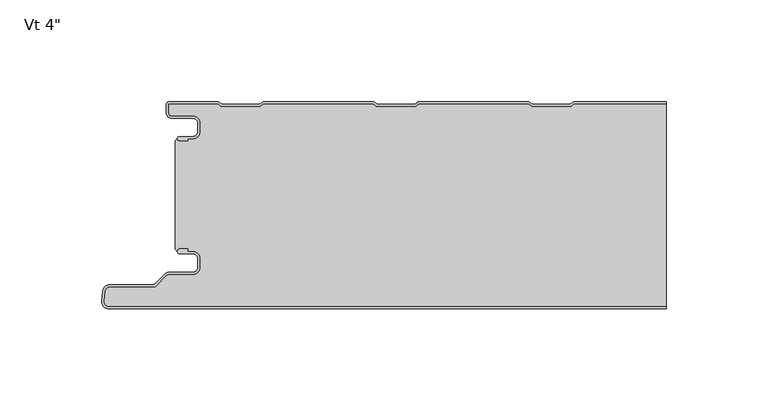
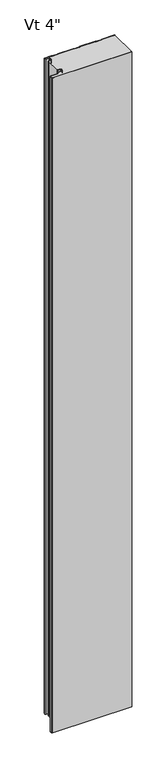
"""IFC4 building model written with IfcOpenShell, lengths in millimetres: plate geometry."""

import ifcopenshell
import ifcopenshell.guid

model = None  # the IFC model being written
_history = None  # IfcOwnerHistory: only IFC2X3 demands one
_inside = {}  # id of a spatial element -> (the spatial element, [elements in it])
_under = {}  # id of a project, library or spatial element -> (it, [spatial elements below it])
_declared = {}  # id of a project -> (the project, [libraries it declares])
_typed = {}  # id of a type object -> (the type object, [elements of that type])
_made_of = {}  # id of a material, layer set ... -> (it, [elements and type objects made of it])


def new_model(schema):
    """Start an empty IFC model of exactly this schema.

    Asked for "IFC4X3", IfcOpenShell would pick the latest addendum, in which some entities
    have other attributes; the version numbers below select the first issue.
    IFC2X3 requires an IfcOwnerHistory on every rooted entity: one is made here for all.
    """
    global model, _history
    if schema == "IFC4X3":
        model = ifcopenshell.file(schema_version=(4, 3, 0, 0))
    else:
        model = ifcopenshell.file(schema=schema)
    _inside.clear()
    _under.clear()
    _declared.clear()
    _typed.clear()
    _made_of.clear()
    _history = None
    if model.schema == "IFC2X3":
        org = make("IfcOrganization", Name="unknown")
        user = make(
            "IfcPersonAndOrganization",
            ThePerson=make("IfcPerson", FamilyName="unknown"),
            TheOrganization=org,
        )
        app = make(
            "IfcApplication",
            ApplicationDeveloper=org,
            Version="unknown",
            ApplicationFullName="unknown",
            ApplicationIdentifier="unknown",
        )
        _history = make(
            "IfcOwnerHistory",
            OwningUser=user,
            OwningApplication=app,
            ChangeAction="ADDED",
            CreationDate=0,
        )
    return model


def make(cls, **values):
    """One entity of the class cls with the attributes given. An attribute that is None is left unset."""
    return model.create_entity(
        cls, **{name: value for name, value in values.items() if value is not None}
    )


def rooted(cls, **values):
    """An entity with a GlobalId (a new one), such as an element, a storey or a relation."""
    return make(cls, GlobalId=ifcopenshell.guid.new(), OwnerHistory=_history, **values)


def si_unit(unit_type, name, prefix=None):
    """IfcSIUnit, for example si_unit("LENGTHUNIT", "METRE", prefix="MILLI")."""
    return make("IfcSIUnit", UnitType=unit_type, Prefix=prefix, Name=name)


def assignment(units):
    """IfcUnitAssignment: the units of a project."""
    return None if units is None else make("IfcUnitAssignment", Units=units)


def point(xyz):
    """IfcCartesianPoint."""
    return None if xyz is None else make("IfcCartesianPoint", Coordinates=xyz)


def direction(xyz):
    """IfcDirection."""
    return None if xyz is None else make("IfcDirection", DirectionRatios=xyz)


def frame(location, z_axis=None, x_axis=None):
    """IfcAxis2Placement3D, a coordinate frame: its origin and axes. An axis left out is left unset."""
    return make(
        "IfcAxis2Placement3D",
        Location=point(location),
        Axis=direction(z_axis),
        RefDirection=direction(x_axis),
    )


def frame_2d(location, x_axis=None):
    """IfcAxis2Placement2D, a coordinate frame in the plane: its origin and x axis."""
    return make(
        "IfcAxis2Placement2D", Location=point(location), RefDirection=direction(x_axis)
    )


def origin():
    """The frame at (0, 0, 0) with its axes left unset."""
    return frame((0.0, 0.0, 0.0))


def origin_with_axes():
    """The frame at (0, 0, 0) with the z axis (0, 0, 1) and the x axis (1, 0, 0) written out."""
    return frame((0.0, 0.0, 0.0), z_axis=(0.0, 0.0, 1.0), x_axis=(1.0, 0.0, 0.0))


def place(relative_to, where):
    """IfcLocalPlacement: puts the frame where relative to a parent placement (None: the world)."""
    return make(
        "IfcLocalPlacement", PlacementRelTo=relative_to, RelativePlacement=where
    )


def context(
    kind, dimensions, precision=None, world=None, true_north=None, identifier=None
):
    """IfcGeometricRepresentationContext, for example the 3D "Model" context."""
    return make(
        "IfcGeometricRepresentationContext",
        ContextIdentifier=identifier,
        ContextType=kind,
        CoordinateSpaceDimension=dimensions,
        Precision=precision,
        WorldCoordinateSystem=world,
        TrueNorth=true_north,
    )


def project(units=None, contexts=None):
    """IfcProject with its units and contexts."""
    return rooted(
        "IfcProject",
        Name="project",
        RepresentationContexts=contexts,
        UnitsInContext=assignment(units),
    )


def spatial(cls, under=None, at=None, **own):
    """A site, building, storey or space (cls), placed at a placement, below another one or the project."""
    s = rooted(cls, ObjectPlacement=at, **own)
    if under is not None:
        _under.setdefault(under.id(), (under, []))[1].append(s)
    return s


def polyline(points):
    """IfcPolyline through the points."""
    return make("IfcPolyline", Points=[point(p) for p in points])


def circle_curve(where, radius):
    """IfcCircle in the frame where."""
    return make("IfcCircle", Position=where, Radius=radius)


def trimmed(basis, trim1, trim2, sense, master):
    """IfcTrimmedCurve: the piece of a basis curve between two trims."""
    return make(
        "IfcTrimmedCurve",
        BasisCurve=basis,
        Trim1=trim1,
        Trim2=trim2,
        SenseAgreement=sense,
        MasterRepresentation=master,
    )


def segment(curve, same_sense, transition):
    """IfcCompositeCurveSegment."""
    return make(
        "IfcCompositeCurveSegment",
        Transition=transition,
        SameSense=same_sense,
        ParentCurve=curve,
    )


def composite_curve(segments, self_intersect=None):
    """IfcCompositeCurve: segments joined end to end."""
    return make("IfcCompositeCurve", Segments=segments, SelfIntersect=self_intersect)


def outline(outer, holes=None, kind="AREA"):
    """IfcArbitraryClosedProfileDef: a profile drawn as a closed curve; with holes, ...WithVoids."""
    if holes is None:
        return make("IfcArbitraryClosedProfileDef", ProfileType=kind, OuterCurve=outer)
    return make(
        "IfcArbitraryProfileDefWithVoids",
        ProfileType=kind,
        OuterCurve=outer,
        InnerCurves=holes,
    )


def extrude(swept, where, along, depth):
    """IfcExtrudedAreaSolid: the profile swept, set in the frame where, extruded along a direction by depth."""
    return make(
        "IfcExtrudedAreaSolid",
        SweptArea=swept,
        Position=where,
        ExtrudedDirection=direction(along),
        Depth=depth,
    )


def shape(context_of_items, identifier, shape_type, items):
    """IfcShapeRepresentation: the items that make up one representation, for example the "Body"."""
    return make(
        "IfcShapeRepresentation",
        ContextOfItems=context_of_items,
        RepresentationIdentifier=identifier,
        RepresentationType=shape_type,
        Items=items,
    )


def source(mapping_origin, context_of_items, identifier, shape_type, items):
    """IfcRepresentationMap: a shape defined once, which mapped items show again and again."""
    return make(
        "IfcRepresentationMap",
        MappingOrigin=mapping_origin,
        MappedRepresentation=shape(context_of_items, identifier, shape_type, items),
    )


def transform(
    local_origin,
    x_axis=None,
    y_axis=None,
    z_axis=None,
    scale=None,
    scale2=None,
    scale3=None,
    uniform=True,
):
    """IfcCartesianTransformationOperator3D, or its non-uniform kind. x_axis, y_axis, z_axis: its Axis1, 2, 3."""
    if uniform:
        return make(
            "IfcCartesianTransformationOperator3D",
            Axis1=direction(x_axis),
            Axis2=direction(y_axis),
            LocalOrigin=point(local_origin),
            Scale=scale,
            Axis3=direction(z_axis),
        )
    return make(
        "IfcCartesianTransformationOperator3DnonUniform",
        Axis1=direction(x_axis),
        Axis2=direction(y_axis),
        LocalOrigin=point(local_origin),
        Scale=scale,
        Axis3=direction(z_axis),
        Scale2=scale2,
        Scale3=scale3,
    )


def mapped(mapping_source, mapping_target):
    """IfcMappedItem: shows the shape of a source again, moved by a transform."""
    return make(
        "IfcMappedItem", MappingSource=mapping_source, MappingTarget=mapping_target
    )


def made_of(thing, what):
    """Note that an element or type object is made of a material, layer set ...; save() writes the relation."""
    if what is not None:
        _made_of.setdefault(what.id(), (what, []))[1].append(thing)
    return thing


def element(
    cls,
    number,
    at=None,
    inside=None,
    cuts=None,
    type_object=None,
    material=None,
    context=None,
    identifier="Body",
    shape_type=None,
    held_by="IfcProductDefinitionShape",
    body=None,
    shapes=None,
    **own,
):
    """One element of the class cls, such as IfcWall. Its Tag is "e" and its number.

    at: its placement. inside: the storey or other place that contains it. cuts: it is an
    opening in that element (IfcRelVoidsElement). A single representation is given by context,
    identifier, shape_type and body (its items); several are given by shapes. held_by: the class
    of the entity that holds the representations. save() writes the other relations.
    """
    e = rooted(cls, Tag="e%d" % number, ObjectPlacement=at, **own)
    if body is not None:
        shapes = [shape(context, identifier, shape_type, body)]
    if shapes is not None:
        e.Representation = make(held_by, Representations=shapes)
    if inside is not None:
        _inside.setdefault(inside.id(), (inside, []))[1].append(e)
    if cuts is not None:
        rooted(
            "IfcRelVoidsElement", RelatingBuildingElement=cuts, RelatedOpeningElement=e
        )
    if type_object is not None:
        _typed.setdefault(type_object.id(), (type_object, []))[1].append(e)
    return made_of(e, material)


def aggregate(whole, parts):
    """IfcRelAggregates: a whole, such as a stair, and the parts it consists of."""
    return rooted("IfcRelAggregates", RelatingObject=whole, RelatedObjects=parts)


def save(model, path):
    """Write the relations noted so far, then the file.

    IfcRelAggregates (storeys below a building ...), IfcRelContainedInSpatialStructure (elements
    in a storey), IfcRelDefinesByType, IfcRelAssociatesMaterial and IfcRelDeclares: one each for
    every whole, place, type object, material and project.
    """
    for whole, parts in _under.values():
        aggregate(whole, parts)
    for where, things in _inside.values():
        rooted(
            "IfcRelContainedInSpatialStructure",
            RelatedElements=things,
            RelatingStructure=where,
        )
    for kind, things in _typed.values():
        rooted("IfcRelDefinesByType", RelatedObjects=things, RelatingType=kind)
    for what, things in _made_of.values():
        rooted("IfcRelAssociatesMaterial", RelatedObjects=things, RelatingMaterial=what)
    for by, libraries in _declared.values():
        rooted("IfcRelDeclares", RelatingContext=by, RelatedDefinitions=libraries)
    model.write(path)


def plane_surface(at):
    """IfcPlane: the flat surface through the origin of the frame at, square to its z axis."""
    return make("IfcPlane", Position=at)


def cylinder_surface(at, radius):
    """IfcCylindricalSurface: all points at the distance radius from the z axis of the frame at."""
    return make("IfcCylindricalSurface", Position=at, Radius=radius)


def revolved_surface(curve, axis_point, axis_direction):
    """IfcSurfaceOfRevolution: the curve turned about the line through axis_point along axis_direction."""
    return make(
        "IfcSurfaceOfRevolution",
        SweptCurve=make("IfcArbitraryOpenProfileDef", ProfileType="CURVE", Curve=curve),
        AxisPosition=make("IfcAxis1Placement", Location=point(axis_point), Axis=direction(axis_direction)),
    )


def advanced_brep(points, edges, surfaces, faces):
    """IfcAdvancedBrep: a solid bounded by faces that lie on surfaces and meet in shared edges.

    An edge is (start, end): straight between two places in points (the first is 0);
    or (start, end, curve); or (start, end, curve, False) where it runs against its curve.
    A face is (place in surfaces, loops), or (place, loops, False) where it looks against
    its surface's normal. A loop lists edges by number (the first is 1), with a minus sign
    where the edge is run from its end to its start. The first loop is the outer one.
    """
    corners = [point(p) for p in points]
    vertices = [make("IfcVertexPoint", VertexGeometry=c) for c in corners]
    made = []
    for start, end, *more in edges:
        made.append(
            make(
                "IfcEdgeCurve",
                EdgeStart=vertices[start],
                EdgeEnd=vertices[end],
                EdgeGeometry=more[0] if more else make("IfcPolyline", Points=[corners[start], corners[end]]),
                SameSense=more[1] if len(more) > 1 else True,
            )
        )
    hull = []
    for where, loops, *sense in faces:
        bounds = []
        for j, loop in enumerate(loops):
            ring = [make("IfcOrientedEdge", EdgeElement=made[abs(k) - 1], Orientation=k > 0) for k in loop]
            bounds.append(
                make(
                    "IfcFaceOuterBound" if j == 0 else "IfcFaceBound",
                    Bound=make("IfcEdgeLoop", EdgeList=ring),
                    Orientation=True,
                )
            )
        hull.append(make("IfcAdvancedFace", Bounds=bounds, FaceSurface=surfaces[where], SameSense=sense[0] if sense else True))
    return make("IfcAdvancedBrep", Outer=make("IfcClosedShell", CfsFaces=hull))


def plate_c613c6d9(model_context):
    return source(origin(), model_context, "Body", "SolidModel", [
        advanced_brep(
        [(-118.368691, -17.0015034, 2400.0), (-119.3686883, -18.0015065, 2400.0), (-118.368691, -19.0014978, 2400.0), (-114.3684874, -19.0014979, 2400.0), (-114.3684874, -18.0015034, 2400.0), (-111.6762776, -18.0015034, 2400.0), (-108.3762819, -14.7015077, 2400.0), (-108.3762819, -10.3015164, 2400.0), (-111.6762774, -7.001521, 2400.0), (-122.0962563, -7.001521, 2400.0), (-123.8662505, -5.2315268, 2400.0), (-123.8662505, -0.9999791, 2400.0), (-99.3659738, -0.9999791, 2400.0), (-97.9803312, -2.2002182, 2400.0), (-78.6051649, -2.2002182, 2400.0), (-77.219532, -0.9999874, 2400.0), (-23.1661166, -0.9999874, 2400.0), (-21.7804836, -2.2002182, 2400.0), (-2.4053173, -2.2002182, 2400.0), (-1.0196844, -0.9999874, 2400.0), (53.033731, -0.9999874, 2400.0), (54.419364, -2.2002182, 2400.0), (73.7945303, -2.2002182, 2400.0), (75.1801632, -0.9999874, 2400.0), (120.3999998, -0.9999874, 2400.0), (120.3999998, 1.26e-05, 2400.0), (75.3293144, 1.26e-05, 2400.0), (74.4126975, -0.3417759, 2400.0), (73.4216499, -1.2002182, 2400.0), (54.7922444, -1.2002182, 2400.0), (53.8011968, -0.3417759, 2400.0), (52.8845799, 1.26e-05, 2400.0), (-0.8705332, 1.26e-05, 2400.0), (-1.7871501, -0.3417759, 2400.0), (-2.7781977, -1.2002182, 2400.0), (-21.4076032, -1.2002182, 2400.0), (-22.3986508, -0.3417759, 2400.0), (-23.3152677, 1.26e-05, 2400.0), (-77.0703808, 1.26e-05, 2400.0), (-77.9869977, -0.3417759, 2400.0), (-78.9780453, -1.2002182, 2400.0), (-97.6074508, -1.2002182, 2400.0), (-98.5984984, -0.3417759, 2400.0), (-99.5152067, 1.26e-05, 2400.0), (-123.4662543, 2.09e-05, 2400.0), (-124.8662505, -1.3999752, 2400.0), (-124.8662505, -5.2315268, 2400.0), (-122.0962563, -8.001521, 2400.0), (-111.6762774, -8.001521, 2400.0), (-109.3762819, -10.3015164, 2400.0), (-109.3762819, -14.7015077, 2400.0), (-111.6762776, -17.0015034, 2400.0), (-118.368691, -17.0015034, 0.0), (-111.6762776, -17.0015034, 0.0), (-109.3762819, -14.7015077, 0.0), (-109.3762819, -10.3015164, 0.0), (-111.6762774, -8.001521, 0.0), (-122.0962563, -8.001521, 0.0), (-124.8662505, -5.2315268, 0.0), (-124.8662505, -1.3999752, 0.0), (-123.4662543, 2.09e-05, 0.0), (-99.5151153, 2.09e-05, 0.0), (-98.5984984, -0.3417759, 0.0), (-97.6074508, -1.2002182, 0.0), (-78.9780453, -1.2002182, 0.0), (-77.9869977, -0.3417759, 0.0), (-77.0703808, 1.26e-05, 0.0), (-23.3152677, 1.26e-05, 0.0), (-22.3986508, -0.3417759, 0.0), (-21.4076032, -1.2002182, 0.0), (-2.7781977, -1.2002182, 0.0), (-1.7871501, -0.3417759, 0.0), (-0.8705332, 1.26e-05, 0.0), (52.8845799, 1.26e-05, 0.0), (53.8011968, -0.3417759, 0.0), (54.7922444, -1.2002182, 0.0), (73.4216499, -1.2002182, 0.0), (74.4126975, -0.3417759, 0.0), (75.3293144, 1.26e-05, 0.0), (120.3999998, 1.26e-05, 0.0), (120.3999998, -0.9999874, 0.0), (75.1801632, -0.9999874, 0.0), (73.7945303, -2.2002182, 0.0), (54.419364, -2.2002182, 0.0), (53.033731, -0.9999874, 0.0), (-1.0196844, -0.9999874, 0.0), (-2.4053173, -2.2002182, 0.0), (-21.7804836, -2.2002182, 0.0), (-23.1661166, -0.9999874, 0.0), (-77.219532, -0.9999874, 0.0), (-78.6051649, -2.2002182, 0.0), (-97.9803312, -2.2002182, 0.0), (-99.3659738, -0.9999791, 0.0), (-123.8662505, -0.9999791, 0.0), (-123.8662505, -5.2315268, 0.0), (-122.0962563, -7.001521, 0.0), (-111.6762774, -7.001521, 0.0), (-108.3762819, -10.3015164, 0.0), (-108.3762819, -14.7015077, 0.0), (-111.6762776, -18.0015034, 0.0), (-114.3684874, -18.0015034, 0.0), (-114.3684874, -19.0014979, 0.0), (-118.368691, -19.0014979, 0.0), (-119.3686882, -18.0015065, 0.0)],
        [
            (0, 1, circle_curve(frame((-118.368691, -18.0015006, 2400.0), z_axis=(0.0, 0.0, 1.0), x_axis=(1.0, 0.0, 0.0)), 0.9999973)),
            (1, 2, circle_curve(frame((-118.368691, -18.0015006, 2400.0), z_axis=(0.0, 0.0, 1.0), x_axis=(1.0, 0.0, 0.0)), 0.9999972)),
            (2, 3),
            (3, 4),
            (4, 5),
            (5, 6, circle_curve(frame((-111.6762776, -14.7015077, 2400.0), z_axis=(0.0, 0.0, 1.0), x_axis=(1.0, 0.0, 0.0)), 3.2999957)),
            (6, 7),
            (7, 8, circle_curve(frame((-111.6762774, -10.3015164, 2400.0), z_axis=(0.0, 0.0, 1.0), x_axis=(1.0, 0.0, 0.0)), 3.2999955)),
            (8, 9),
            (9, 10, circle_curve(frame((-122.0962563, -5.2315268, 2400.0), z_axis=(0.0, 0.0, -1.0), x_axis=(1.0, 0.0, 0.0)), 1.7699942)),
            (10, 11),
            (11, 12),
            (12, 13),
            (13, 14),
            (14, 15),
            (15, 16),
            (16, 17),
            (17, 18),
            (18, 19),
            (19, 20),
            (20, 21),
            (21, 22),
            (22, 23),
            (23, 24),
            (24, 25),
            (25, 26),
            (26, 27, circle_curve(frame((75.3293144, -1.3999846, 2400.0), z_axis=(0.0, 0.0, 1.0), x_axis=(1.0, 0.0, 0.0)), 1.3999972)),
            (27, 28),
            (28, 29),
            (29, 30),
            (30, 31, circle_curve(frame((52.8845799, -1.3999846, 2400.0), z_axis=(0.0, 0.0, 1.0), x_axis=(1.0, 0.0, 0.0)), 1.3999972)),
            (31, 32),
            (32, 33, circle_curve(frame((-0.8705332, -1.3999846, 2400.0), z_axis=(0.0, 0.0, 1.0), x_axis=(1.0, 0.0, 0.0)), 1.3999972)),
            (33, 34),
            (34, 35),
            (35, 36),
            (36, 37, circle_curve(frame((-23.3152677, -1.3999846, 2400.0), z_axis=(0.0, 0.0, 1.0), x_axis=(1.0, 0.0, 0.0)), 1.3999972)),
            (37, 38),
            (38, 39, circle_curve(frame((-77.0703808, -1.3999846, 2400.0), z_axis=(0.0, 0.0, 1.0), x_axis=(1.0, 0.0, 0.0)), 1.3999972)),
            (39, 40),
            (40, 41),
            (41, 42),
            (42, 43, circle_curve(frame((-99.5151153, -1.3999846, 2400.0), z_axis=(0.0, 0.0, 1.0), x_axis=(1.0, 0.0, 0.0)), 1.3999972)),
            (43, 44),
            (44, 45, circle_curve(frame((-123.4662543, -1.3999752, 2400.0), z_axis=(0.0, 0.0, 1.0), x_axis=(1.0, 0.0, 0.0)), 1.3999962)),
            (45, 46),
            (46, 47, circle_curve(frame((-122.0962563, -5.2315268, 2400.0), z_axis=(0.0, 0.0, 1.0), x_axis=(1.0, 0.0, 0.0)), 2.7699942)),
            (47, 48),
            (48, 49, circle_curve(frame((-111.6762774, -10.3015164, 2400.0), z_axis=(0.0, 0.0, -1.0), x_axis=(1.0, 0.0, 0.0)), 2.2999955)),
            (49, 50),
            (50, 51, circle_curve(frame((-111.6762776, -14.7015077, 2400.0), z_axis=(0.0, 0.0, -1.0), x_axis=(1.0, 0.0, 0.0)), 2.2999957)),
            (51, 0),
            (52, 53),
            (53, 54, circle_curve(frame((-111.6762776, -14.7015077, 0.0), z_axis=(0.0, 0.0, 1.0), x_axis=(1.0, 0.0, 0.0)), 2.2999957)),
            (54, 55),
            (55, 56, circle_curve(frame((-111.6762774, -10.3015164, 0.0), z_axis=(0.0, 0.0, 1.0), x_axis=(1.0, 0.0, 0.0)), 2.2999955)),
            (56, 57),
            (57, 58, circle_curve(frame((-122.0962563, -5.2315268, 0.0), z_axis=(0.0, 0.0, -1.0), x_axis=(1.0, 0.0, 0.0)), 2.7699942)),
            (58, 59),
            (59, 60, circle_curve(frame((-123.4662543, -1.3999752, 0.0), z_axis=(0.0, 0.0, -1.0), x_axis=(1.0, 0.0, 0.0)), 1.3999962)),
            (60, 61),
            (61, 62, circle_curve(frame((-99.5151153, -1.3999846, 0.0), z_axis=(0.0, 0.0, -1.0), x_axis=(1.0, 0.0, 0.0)), 1.3999972)),
            (62, 63),
            (63, 64),
            (64, 65),
            (65, 66, circle_curve(frame((-77.0703808, -1.3999846, 0.0), z_axis=(0.0, 0.0, -1.0), x_axis=(1.0, 0.0, 0.0)), 1.3999972)),
            (66, 67),
            (67, 68, circle_curve(frame((-23.3152677, -1.3999846, 0.0), z_axis=(0.0, 0.0, -1.0), x_axis=(1.0, 0.0, 0.0)), 1.3999972)),
            (68, 69),
            (69, 70),
            (70, 71),
            (71, 72, circle_curve(frame((-0.8705332, -1.3999846, 0.0), z_axis=(0.0, 0.0, -1.0), x_axis=(1.0, 0.0, 0.0)), 1.3999972)),
            (72, 73),
            (73, 74, circle_curve(frame((52.8845799, -1.3999846, 0.0), z_axis=(0.0, 0.0, -1.0), x_axis=(1.0, 0.0, 0.0)), 1.3999972)),
            (74, 75),
            (75, 76),
            (76, 77),
            (77, 78, circle_curve(frame((75.3293144, -1.3999846, 0.0), z_axis=(0.0, 0.0, -1.0), x_axis=(1.0, 0.0, 0.0)), 1.3999972)),
            (78, 79),
            (79, 80),
            (80, 81),
            (81, 82),
            (82, 83),
            (83, 84),
            (84, 85),
            (85, 86),
            (86, 87),
            (87, 88),
            (88, 89),
            (89, 90),
            (90, 91),
            (91, 92),
            (92, 93),
            (93, 94),
            (94, 95, circle_curve(frame((-122.0962563, -5.2315268, 0.0), z_axis=(0.0, 0.0, 1.0), x_axis=(1.0, 0.0, 0.0)), 1.7699942)),
            (95, 96),
            (96, 97, circle_curve(frame((-111.6762774, -10.3015164, 0.0), z_axis=(0.0, 0.0, -1.0), x_axis=(1.0, 0.0, 0.0)), 3.2999955)),
            (97, 98),
            (98, 99, circle_curve(frame((-111.6762776, -14.7015077, 0.0), z_axis=(0.0, 0.0, -1.0), x_axis=(1.0, 0.0, 0.0)), 3.2999957)),
            (99, 100),
            (100, 101),
            (101, 102),
            (102, 103, circle_curve(frame((-118.368691, -18.0015006, 0.0), z_axis=(0.0, 0.0, -1.0), x_axis=(1.0, 0.0, 0.0)), 0.9999972)),
            (103, 52, circle_curve(frame((-118.368691, -18.0015006, 0.0), z_axis=(0.0, 0.0, -1.0), x_axis=(1.0, 0.0, 0.0)), 0.9999973)),
            (24, 80),
            (79, 25),
            (51, 53),
            (52, 0),
            (50, 54),
            (49, 55),
            (48, 56),
            (47, 57),
            (46, 58),
            (45, 59),
            (44, 60),
            (43, 61),
            (78, 26),
            (42, 62),
            (41, 63),
            (40, 64),
            (38, 66),
            (65, 39),
            (36, 68),
            (67, 37),
            (77, 27),
            (76, 28),
            (31, 73),
            (72, 32),
            (71, 33),
            (34, 70),
            (69, 35),
            (30, 74),
            (29, 75),
            (2, 102),
            (101, 3),
            (1, 103),
            (23, 81),
            (22, 82),
            (21, 83),
            (20, 84),
            (19, 85),
            (18, 86),
            (17, 87),
            (16, 88),
            (15, 89),
            (14, 90),
            (13, 91),
            (12, 92),
            (11, 93),
            (10, 94),
            (9, 95),
            (8, 96),
            (7, 97),
            (6, 98),
            (5, 99),
            (4, 100),
        ],
        [
            plane_surface(frame((184.4000002, 1.26e-05, 2400.0), z_axis=(0.0, 0.0, 1.0), x_axis=(0.0, 1.0, 0.0))),
            plane_surface(frame((184.4000002, 1.26e-05, 0.0), z_axis=(0.0, 0.0, -1.0), x_axis=(0.0, 1.0, 0.0))),
            plane_surface(frame((120.3999998, -111.5999874, 2400.0), z_axis=(1.0, 0.0, 0.0), x_axis=(0.0, 0.0, -1.0))),
            plane_surface(frame((-118.368691, -17.0015034, 2400.0), z_axis=(0.0, 1.0, 0.0), x_axis=(0.0, 0.0, -1.0))),
            revolved_surface(polyline([(-109.37628190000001, -14.7015077, 0.0), (-109.37628190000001, -14.7015077, 2400.0)]), (-111.6762776, -14.7015077, 2400.0), (0.0, 0.0, -1.0)),
            plane_surface(frame((-109.3762819, -14.7015077, 2400.0), z_axis=(-1.0, 0.0, 0.0), x_axis=(0.0, 0.0, -1.0))),
            revolved_surface(polyline([(-109.37628190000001, -10.3015164, 0.0), (-109.37628190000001, -10.3015164, 2400.0)]), (-111.6762774, -10.3015164, 2400.0), (0.0, 0.0, -1.0)),
            plane_surface(frame((-111.6762774, -8.001521, 2400.0), z_axis=(0.0, -1.0, 0.0), x_axis=(0.0, 0.0, -1.0))),
            cylinder_surface(frame((-122.0962563, -5.2315268, 2400.0), z_axis=(0.0, 0.0, 1.0), x_axis=(1.0, 0.0, 0.0)), 2.7699942),
            plane_surface(frame((-124.8662505, -5.2315268, 2400.0), z_axis=(-1.0, 0.0, 0.0), x_axis=(0.0, 0.0, -1.0))),
            cylinder_surface(frame((-123.4662543, -1.3999752, 2400.0), z_axis=(0.0, 0.0, 1.0), x_axis=(1.0, 0.0, 0.0)), 1.3999962),
            plane_surface(frame((-123.4662543, 2.09e-05, 2400.0), z_axis=(0.0, 1.0, 0.0), x_axis=(0.0, 0.0, -1.0))),
            plane_surface(frame((75.3293144, 1.26e-05, 2400.0), z_axis=(0.0, 1.0, 0.0), x_axis=(0.0, 0.0, -1.0))),
            cylinder_surface(frame((-99.5151153, -1.3999846, 2400.0), z_axis=(0.0, 0.0, 1.0), x_axis=(1.0, 0.0, 0.0)), 1.3999972),
            plane_surface(frame((-98.5984984, -0.3417759, 2400.0), z_axis=(0.6547276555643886, 0.755864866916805, 0.0), x_axis=(0.0, 0.0, -1.0))),
            plane_surface(frame((-88.2927481, -1.2002182, 2400.0), z_axis=(0.0, 1.0, 0.0), x_axis=(0.0, 0.0, -1.0))),
            cylinder_surface(frame((-77.0703808, -1.3999846, 2400.0), z_axis=(0.0, 0.0, 1.0), x_axis=(1.0, 0.0, 0.0)), 1.3999972),
            plane_surface(frame((-78.9780453, -1.2002182, 2400.0), z_axis=(-0.6547276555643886, 0.755864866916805, 0.0), x_axis=(0.0, 0.0, -1.0))),
            cylinder_surface(frame((-23.3152677, -1.3999846, 2400.0), z_axis=(0.0, 0.0, 1.0), x_axis=(1.0, 0.0, 0.0)), 1.3999972),
            cylinder_surface(frame((75.3293144, -1.3999846, 2400.0), z_axis=(0.0, 0.0, 1.0), x_axis=(1.0, 0.0, 0.0)), 1.3999972),
            plane_surface(frame((73.4216499, -1.2002182, 2400.0), z_axis=(-0.6547276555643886, 0.755864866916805, 0.0), x_axis=(0.0, 0.0, -1.0))),
            plane_surface(frame((-0.8705332, 1.26e-05, 2400.0), z_axis=(0.0, 1.0, 0.0), x_axis=(0.0, 0.0, -1.0))),
            cylinder_surface(frame((-0.8705332, -1.3999846, 2400.0), z_axis=(0.0, 0.0, 1.0), x_axis=(1.0, 0.0, 0.0)), 1.3999972),
            plane_surface(frame((-12.0929005, -1.2002182, 2400.0), z_axis=(0.0, 1.0, 0.0), x_axis=(0.0, 0.0, -1.0))),
            plane_surface(frame((-22.3986508, -0.3417759, 2400.0), z_axis=(0.6547276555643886, 0.755864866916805, 0.0), x_axis=(0.0, 0.0, -1.0))),
            plane_surface(frame((-2.7781977, -1.2002182, 2400.0), z_axis=(-0.6547276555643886, 0.755864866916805, 0.0), x_axis=(0.0, 0.0, -1.0))),
            plane_surface(frame((-77.0703808, 1.26e-05, 2400.0), z_axis=(0.0, 1.0, 0.0), x_axis=(0.0, 0.0, -1.0))),
            cylinder_surface(frame((52.8845799, -1.3999846, 2400.0), z_axis=(0.0, 0.0, 1.0), x_axis=(1.0, 0.0, 0.0)), 1.3999972),
            plane_surface(frame((53.8011968, -0.3417759, 2400.0), z_axis=(0.6547276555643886, 0.755864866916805, 0.0), x_axis=(0.0, 0.0, -1.0))),
            plane_surface(frame((64.1069471, -1.2002182, 2400.0), z_axis=(0.0, 1.0, 0.0), x_axis=(0.0, 0.0, -1.0))),
            plane_surface(frame((-114.3684874, -19.0014979, 2400.0), z_axis=(0.0, -1.0, 0.0), x_axis=(0.0, 0.0, -1.0))),
            cylinder_surface(frame((-118.368691, -18.0015006, 2400.0), z_axis=(0.0, 0.0, 1.0), x_axis=(1.0, 0.0, 0.0)), 0.9999972),
            cylinder_surface(frame((-118.368691, -18.0015006, 2400.0), z_axis=(0.0, 0.0, 1.0), x_axis=(1.0, 0.0, 0.0)), 0.9999973),
            plane_surface(frame((129.2335786, -0.9999874, 2400.0), z_axis=(0.0, -1.0, 0.0), x_axis=(0.0, 0.0, -1.0))),
            plane_surface(frame((75.1801632, -0.9999874, 2400.0), z_axis=(0.6547276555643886, -0.755864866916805, 0.0), x_axis=(0.0, 0.0, -1.0))),
            plane_surface(frame((73.7945303, -2.2002182, 2400.0), z_axis=(0.0, -1.0, 0.0), x_axis=(0.0, 0.0, -1.0))),
            plane_surface(frame((54.419364, -2.2002182, 2400.0), z_axis=(-0.6547276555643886, -0.755864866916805, 0.0), x_axis=(0.0, 0.0, -1.0))),
            plane_surface(frame((53.033731, -0.9999874, 2400.0), z_axis=(0.0, -1.0, 0.0), x_axis=(0.0, 0.0, -1.0))),
            plane_surface(frame((-1.0196844, -0.9999874, 2400.0), z_axis=(0.6547276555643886, -0.755864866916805, 0.0), x_axis=(0.0, 0.0, -1.0))),
            plane_surface(frame((-2.4053173, -2.2002182, 2400.0), z_axis=(0.0, -1.0, 0.0), x_axis=(0.0, 0.0, -1.0))),
            plane_surface(frame((-21.7804836, -2.2002182, 2400.0), z_axis=(-0.6547276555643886, -0.755864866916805, 0.0), x_axis=(0.0, 0.0, -1.0))),
            plane_surface(frame((-23.1661166, -0.9999874, 2400.0), z_axis=(0.0, -1.0, 0.0), x_axis=(0.0, 0.0, -1.0))),
            plane_surface(frame((-77.219532, -0.9999874, 2400.0), z_axis=(0.6547276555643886, -0.755864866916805, 0.0), x_axis=(0.0, 0.0, -1.0))),
            plane_surface(frame((-78.6051649, -2.2002182, 2400.0), z_axis=(0.0, -1.0, 0.0), x_axis=(0.0, 0.0, -1.0))),
            plane_surface(frame((-97.9803312, -2.2002182, 2400.0), z_axis=(-0.6547276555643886, -0.755864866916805, 0.0), x_axis=(0.0, 0.0, -1.0))),
            plane_surface(frame((-99.3659738, -0.9999791, 2400.0), z_axis=(0.0, -1.0, 0.0), x_axis=(0.0, 0.0, -1.0))),
            plane_surface(frame((-123.8662505, -0.9999791, 2400.0), z_axis=(1.0, 0.0, 0.0), x_axis=(0.0, 0.0, -1.0))),
            revolved_surface(polyline([(-120.3262621, -5.2315268, 0.0), (-120.3262621, -5.2315268, 2400.0)]), (-122.0962563, -5.2315268, 2400.0), (0.0, 0.0, -1.0)),
            plane_surface(frame((-122.0962563, -7.001521, 2400.0), z_axis=(0.0, 1.0, 0.0), x_axis=(0.0, 0.0, -1.0))),
            cylinder_surface(frame((-111.6762774, -10.3015164, 2400.0), z_axis=(0.0, 0.0, 1.0), x_axis=(1.0, 0.0, 0.0)), 3.2999955),
            plane_surface(frame((-108.3762819, -10.3015164, 2400.0), z_axis=(1.0, 0.0, 0.0), x_axis=(0.0, 0.0, -1.0))),
            cylinder_surface(frame((-111.6762776, -14.7015077, 2400.0), z_axis=(0.0, 0.0, 1.0), x_axis=(1.0, 0.0, 0.0)), 3.2999957),
            plane_surface(frame((-111.6762776, -18.0015034, 2400.0), z_axis=(0.0, -1.0, 0.0), x_axis=(0.0, 0.0, -1.0))),
            plane_surface(frame((-114.3684874, -18.0015034, 2400.0), z_axis=(1.0, 0.0, 0.0), x_axis=(0.0, 0.0, -1.0))),
        ],
        [
            (0, [[1, 2, 3, 4, 5, 6, 7, 8, 9, 10, 11, 12, 13, 14, 15, 16, 17, 18, 19, 20, 21, 22, 23, 24, 25, 26, 27, 28, 29, 30, 31, 32, 33, 34, 35, 36, 37, 38, 39, 40, 41, 42, 43, 44, 45, 46, 47, 48, 49, 50, 51, 52]]),
            (1, [[53, 54, 55, 56, 57, 58, 59, 60, 61, 62, 63, 64, 65, 66, 67, 68, 69, 70, 71, 72, 73, 74, 75, 76, 77, 78, 79, 80, 81, 82, 83, 84, 85, 86, 87, 88, 89, 90, 91, 92, 93, 94, 95, 96, 97, 98, 99, 100, 101, 102, 103, 104]]),
            (2, [[105, -80, 106, -25]]),
            (3, [[107, -53, 108, -52]]),
            (4, [[109, -54, -107, -51]]),
            (5, [[110, -55, -109, -50]]),
            (6, [[111, -56, -110, -49]]),
            (7, [[112, -57, -111, -48]]),
            (8, [[113, -58, -112, -47]]),
            (9, [[114, -59, -113, -46]]),
            (10, [[115, -60, -114, -45]]),
            (11, [[116, -61, -115, -44]]),
            (12, [[-26, -106, -79, 117]]),
            (13, [[118, -62, -116, -43]]),
            (14, [[119, -63, -118, -42]]),
            (15, [[120, -64, -119, -41]]),
            (16, [[121, -66, 122, -39]]),
            (17, [[-122, -65, -120, -40]]),
            (18, [[123, -68, 124, -37]]),
            (19, [[-117, -78, 125, -27]]),
            (20, [[-125, -77, 126, -28]]),
            (21, [[127, -73, 128, -32]]),
            (22, [[-128, -72, 129, -33]]),
            (23, [[130, -70, 131, -35]]),
            (24, [[-131, -69, -123, -36]]),
            (25, [[-129, -71, -130, -34]]),
            (26, [[-124, -67, -121, -38]]),
            (27, [[132, -74, -127, -31]]),
            (28, [[133, -75, -132, -30]]),
            (29, [[-126, -76, -133, -29]]),
            (30, [[134, -102, 135, -3]]),
            (31, [[136, -103, -134, -2]]),
            (32, [[-108, -104, -136, -1]]),
            (33, [[-81, -105, -24, 137]]),
            (34, [[138, -82, -137, -23]]),
            (35, [[139, -83, -138, -22]]),
            (36, [[140, -84, -139, -21]]),
            (37, [[141, -85, -140, -20]]),
            (38, [[142, -86, -141, -19]]),
            (39, [[143, -87, -142, -18]]),
            (40, [[144, -88, -143, -17]]),
            (41, [[145, -89, -144, -16]]),
            (42, [[146, -90, -145, -15]]),
            (43, [[147, -91, -146, -14]]),
            (44, [[148, -92, -147, -13]]),
            (45, [[149, -93, -148, -12]]),
            (46, [[150, -94, -149, -11]]),
            (47, [[151, -95, -150, -10]]),
            (48, [[152, -96, -151, -9]]),
            (49, [[153, -97, -152, -8]]),
            (50, [[154, -98, -153, -7]]),
            (51, [[155, -99, -154, -6]]),
            (52, [[156, -100, -155, -5]]),
            (53, [[-135, -101, -156, -4]]),
        ],
    ),
        extrude(outline(composite_curve([segment(polyline([(-156.4087505, -97.7183478), (-155.9690674, -92.6944311)]), True, "CONTINUOUS"), segment(trimmed(circle_curve(frame_2d((-152.3198391, -93.3052322)), 3.6999926), [point((-155.9690674, -92.6944311))], [point((-152.3198391, -89.6052396))], False, "CARTESIAN"), True, "CONTINUOUS"), segment(polyline([(-152.3198391, -89.6052396), (-131.1773995, -89.6052396)]), True, "CONTINUOUS"), segment(trimmed(circle_curve(frame_2d((-131.1773995, -88.3052422)), 1.2999974), [point((-131.1773995, -89.6052396))], [point((-130.2581626, -89.2244792))], True, "CARTESIAN"), True, "CONTINUOUS"), segment(polyline([(-130.2581626, -89.2244792), (-125.4297451, -84.3960618)]), True, "CONTINUOUS"), segment(trimmed(circle_curve(frame_2d((-123.5205606, -86.3052462)), 2.6999946), [point((-125.4297451, -84.3960618))], [point((-123.5205606, -83.6052516))], False, "CARTESIAN"), True, "CONTINUOUS"), segment(polyline([(-123.5205606, -83.6052516), (-111.7096715, -83.6052516)]), True, "CONTINUOUS"), segment(trimmed(circle_curve(frame_2d((-111.7096715, -81.2552563)), 2.3499953), [point((-111.7096715, -83.6052516))], [point((-109.3596762, -81.2552563))], True, "CARTESIAN"), True, "CONTINUOUS"), segment(polyline([(-109.3596762, -81.2552563), (-109.3596762, -76.8552651)]), True, "CONTINUOUS"), segment(trimmed(circle_curve(frame_2d((-111.7096715, -76.8552651)), 2.3499953), [point((-109.3596762, -76.8552651))], [point((-111.7096715, -74.5052698))], True, "CARTESIAN"), True, "CONTINUOUS"), segment(polyline([(-111.7096715, -74.5052698), (-118.2289777, -74.5052698)]), True, "CONTINUOUS"), segment(trimmed(circle_curve(frame_2d((-118.1686906, -73.3067876)), 1.1999976), [point((-118.2289777, -74.5052698))], [point((-119.3683, -73.2762657))], False, "CARTESIAN"), True, "CONTINUOUS"), segment(trimmed(circle_curve(frame_2d((-118.1686906, -73.3067876)), 1.1999976), [point((-119.3683, -73.2762657))], [point((-118.167176, -72.106791))], False, "CARTESIAN"), True, "CONTINUOUS"), segment(polyline([(-118.167176, -72.106791), (-114.4087826, -72.106791), (-114.4087826, -73.5052698), (-111.7096715, -73.5052698)]), True, "CONTINUOUS"), segment(trimmed(circle_curve(frame_2d((-111.7096715, -76.8552651)), 3.3499953), [point((-111.7096715, -73.5052698))], [point((-108.3596762, -76.8552651))], False, "CARTESIAN"), True, "CONTINUOUS"), segment(polyline([(-108.3596762, -76.8552651), (-108.3596762, -81.2552563)]), True, "CONTINUOUS"), segment(trimmed(circle_curve(frame_2d((-111.7096715, -81.2552563)), 3.3499953), [point((-108.3596762, -81.2552563))], [point((-111.7096715, -84.6052516))], False, "CARTESIAN"), True, "CONTINUOUS"), segment(polyline([(-111.7096715, -84.6052516), (-123.5205606, -84.6052516)]), True, "CONTINUOUS"), segment(trimmed(circle_curve(frame_2d((-123.5205606, -86.3052462)), 1.6999946), [point((-123.5205606, -84.6052516))], [point((-124.7226383, -85.1031685))], True, "CARTESIAN"), True, "CONTINUOUS"), segment(polyline([(-124.7226383, -85.1031685), (-130.2247094, -90.6052396), (-152.3198391, -90.6052396)]), True, "CONTINUOUS"), segment(trimmed(circle_curve(frame_2d((-152.3198391, -93.3052322)), 2.6999926), [point((-152.3198391, -90.6052396))], [point((-154.9765707, -92.8238416))], True, "CARTESIAN"), True, "CONTINUOUS"), segment(polyline([(-154.9765707, -92.8238416), (-155.4125697, -97.8056625)]), True, "CONTINUOUS"), segment(trimmed(circle_curve(frame_2d((-152.8521175, -98.0297482)), 2.5702393), [point((-155.4125697, -97.8056625))], [point((-152.9094458, -100.599348))], True, "CARTESIAN"), True, "CONTINUOUS"), segment(polyline([(-152.9094458, -100.599348), (120.3999998, -100.599348), (120.3999998, -101.5996828), (-152.8521038, -101.5998575)]), True, "CONTINUOUS"), segment(trimmed(circle_curve(frame_2d((-152.8521061, -98.0296182)), 3.5702393), [point((-152.8521038, -101.5998575))], [point((-156.4087505, -97.7183478))], False, "CARTESIAN"), True, "CONTINUOUS")], self_intersect=False)), origin_with_axes(), (0.0, 0.0, 1.0), 2400.0),
        advanced_brep(
        [(-119.3683, -73.2708624, 2400.0), (-118.167176, -72.1013877, 2400.0), (-114.4087826, -72.1013877, 2400.0), (-114.4087826, -73.4998666, 2400.0), (-111.7096715, -73.4998666, 2400.0), (-108.3596762, -76.8498619, 2400.0), (-108.3596762, -81.2498531, 2400.0), (-111.7096715, -84.5998484, 2400.0), (-123.5205606, -84.5998484, 2400.0), (-124.7226383, -85.0977653, 2400.0), (-130.2247094, -90.5998364, 2400.0), (-152.3198391, -90.5998364, 2400.0), (-154.9765707, -92.8184384, 2400.0), (-155.4125697, -97.8002592, 2400.0), (-152.8521175, -100.5945842, 2400.0), (120.3999998, -100.5999874, 2400.0), (120.3999998, -0.9999874, 2400.0), (75.1801633, -0.9999874, 2400.0), (73.7945303, -2.2002182, 2400.0), (54.419364, -2.2002182, 2400.0), (53.0337311, -0.9999874, 2400.0), (-1.0196843, -0.9999874, 2400.0), (-2.4053173, -2.2002182, 2400.0), (-21.7804836, -2.2002182, 2400.0), (-23.1661165, -0.9999874, 2400.0), (-77.2195319, -0.9999874, 2400.0), (-78.6051649, -2.2002182, 2400.0), (-97.9803312, -2.2002182, 2400.0), (-99.3659738, -0.9999791, 2400.0), (-123.8662504, -0.9999791, 2400.0), (-123.8662504, -5.2315264, 2400.0), (-122.0962562, -7.0015206, 2400.0), (-111.6762777, -7.0015206, 2400.0), (-108.3762818, -10.3015164, 2400.0), (-108.3762818, -14.7015077, 2400.0), (-111.6762775, -18.0015034, 2400.0), (-114.3684873, -18.0015034, 2400.0), (-114.3684873, -19.0014979, 2400.0), (-118.368691, -19.0014979, 2400.0), (-119.3686882, -18.0015066, 2400.0), (-120.3999998, -19.0328183, 2400.0), (-120.3999998, -72.2391626, 2400.0), (-119.3683, -73.2708624, 0.0), (-120.3999998, -72.2391626, 0.0), (-120.3999998, -19.0328183, 0.0), (-119.3686882, -18.0015066, 0.0), (-118.368691, -19.0014979, 0.0), (-114.3684873, -19.0014979, 0.0), (-114.3684873, -18.0015034, 0.0), (-111.6762775, -18.0015034, 0.0), (-108.3762818, -14.7015077, 0.0), (-108.3762818, -10.3015164, 0.0), (-111.6762777, -7.0015206, 0.0), (-122.0962562, -7.0015206, 0.0), (-123.8662504, -5.2315264, 0.0), (-123.8662504, -0.9999791, 0.0), (-99.3659738, -0.9999791, 0.0), (-97.9803312, -2.2002182, 0.0), (-78.6051649, -2.2002182, 0.0), (-77.2195319, -0.9999874, 0.0), (-23.1661165, -0.9999874, 0.0), (-21.7804836, -2.2002182, 0.0), (-2.4053173, -2.2002182, 0.0), (-1.0196843, -0.9999874, 0.0), (53.0337311, -0.9999874, 0.0), (54.419364, -2.2002182, 0.0), (73.7945303, -2.2002182, 0.0), (75.1801633, -0.9999874, 0.0), (120.3999998, -0.9999874, 0.0), (120.3999998, -100.5999874, 0.0), (-152.8521175, -100.5999874, 0.0), (-155.4125697, -97.8002592, 0.0), (-154.9765707, -92.8184384, 0.0), (-152.3198391, -90.5998364, 0.0), (-130.2247094, -90.5998364, 0.0), (-124.7226383, -85.0977653, 0.0), (-123.5205606, -84.5998484, 0.0), (-111.7096715, -84.5998484, 0.0), (-108.3596762, -81.2498531, 0.0), (-108.3596762, -76.8498619, 0.0), (-111.7096715, -73.4998666, 0.0), (-114.4087826, -73.4998666, 0.0), (-114.4087826, -72.1013877, 0.0), (-118.167176, -72.1013877, 0.0)],
        [
            (0, 1, circle_curve(frame((-118.1686906, -73.3013843, 2400.0), z_axis=(0.0, 0.0, -1.0), x_axis=(-1.0, 0.0, 0.0)), 1.1999976)),
            (1, 2),
            (2, 3),
            (3, 4),
            (4, 5, circle_curve(frame((-111.7096715, -76.8498619, 2400.0), z_axis=(0.0, 0.0, -1.0), x_axis=(-1.0, 0.0, 0.0)), 3.3499953)),
            (5, 6),
            (6, 7, circle_curve(frame((-111.7096715, -81.2498531, 2400.0), z_axis=(0.0, 0.0, -1.0), x_axis=(-1.0, 0.0, 0.0)), 3.3499953)),
            (7, 8),
            (8, 9, circle_curve(frame((-123.5205606, -86.299843, 2400.0), z_axis=(0.0, 0.0, 1.0), x_axis=(-1.0, 0.0, 0.0)), 1.6999946)),
            (9, 10),
            (10, 11),
            (11, 12, circle_curve(frame((-152.3198391, -93.299829, 2400.0), z_axis=(0.0, 0.0, 1.0), x_axis=(-1.0, 0.0, 0.0)), 2.6999926)),
            (12, 13),
            (13, 14, circle_curve(frame((-152.8521175, -98.0243449, 2400.0), z_axis=(0.0, 0.0, 1.0), x_axis=(-1.0, 0.0, 0.0)), 2.5702393)),
            (14, 15),
            (15, 16),
            (16, 17),
            (17, 18),
            (18, 19),
            (19, 20),
            (20, 21),
            (21, 22),
            (22, 23),
            (23, 24),
            (24, 25),
            (25, 26),
            (26, 27),
            (27, 28),
            (28, 29),
            (29, 30),
            (30, 31, circle_curve(frame((-122.0962562, -5.2315264, 2400.0), z_axis=(0.0, 0.0, 1.0), x_axis=(1.0, 0.0, 0.0)), 1.7699942)),
            (31, 32),
            (32, 33, circle_curve(frame((-111.6762777, -10.3015164, 2400.0), z_axis=(0.0, 0.0, -1.0), x_axis=(1.0, 0.0, 0.0)), 3.2999959)),
            (33, 34),
            (34, 35, circle_curve(frame((-111.6762775, -14.7015077, 2400.0), z_axis=(0.0, 0.0, -1.0), x_axis=(1.0, 0.0, 0.0)), 3.2999957)),
            (35, 36),
            (36, 37),
            (37, 38),
            (38, 39, circle_curve(frame((-118.368691, -18.0015007, 2400.0), z_axis=(0.0, 0.0, -1.0), x_axis=(1.0, 0.0, 0.0)), 0.9999972)),
            (39, 40),
            (40, 41),
            (41, 0),
            (42, 43),
            (43, 44),
            (44, 45),
            (45, 46, circle_curve(frame((-118.368691, -18.0015007, 0.0), z_axis=(0.0, 0.0, 1.0), x_axis=(1.0, 0.0, 0.0)), 0.9999972)),
            (46, 47),
            (47, 48),
            (48, 49),
            (49, 50, circle_curve(frame((-111.6762775, -14.7015077, 0.0), z_axis=(0.0, 0.0, 1.0), x_axis=(1.0, 0.0, 0.0)), 3.2999957)),
            (50, 51),
            (51, 52, circle_curve(frame((-111.6762777, -10.3015164, 0.0), z_axis=(0.0, 0.0, 1.0), x_axis=(1.0, 0.0, 0.0)), 3.2999959)),
            (52, 53),
            (53, 54, circle_curve(frame((-122.0962562, -5.2315264, 0.0), z_axis=(0.0, 0.0, -1.0), x_axis=(1.0, 0.0, 0.0)), 1.7699942)),
            (54, 55),
            (55, 56),
            (56, 57),
            (57, 58),
            (58, 59),
            (59, 60),
            (60, 61),
            (61, 62),
            (62, 63),
            (63, 64),
            (64, 65),
            (65, 66),
            (66, 67),
            (67, 68),
            (68, 69),
            (69, 70),
            (70, 71, circle_curve(frame((-152.8521175, -98.0243449, 0.0), z_axis=(0.0, 0.0, -1.0), x_axis=(-1.0, 0.0, 0.0)), 2.5702393)),
            (71, 72),
            (72, 73, circle_curve(frame((-152.3198391, -93.299829, 0.0), z_axis=(0.0, 0.0, -1.0), x_axis=(-1.0, 0.0, 0.0)), 2.6999926)),
            (73, 74),
            (74, 75),
            (75, 76, circle_curve(frame((-123.5205606, -86.299843, 0.0), z_axis=(0.0, 0.0, -1.0), x_axis=(-1.0, 0.0, 0.0)), 1.6999946)),
            (76, 77),
            (77, 78, circle_curve(frame((-111.7096715, -81.2498531, 0.0), z_axis=(0.0, 0.0, 1.0), x_axis=(-1.0, 0.0, 0.0)), 3.3499953)),
            (78, 79),
            (79, 80, circle_curve(frame((-111.7096715, -76.8498619, 0.0), z_axis=(0.0, 0.0, 1.0), x_axis=(-1.0, 0.0, 0.0)), 3.3499953)),
            (80, 81),
            (81, 82),
            (82, 83),
            (83, 42, circle_curve(frame((-118.1686906, -73.3013843, 0.0), z_axis=(0.0, 0.0, 1.0), x_axis=(-1.0, 0.0, 0.0)), 1.1999976)),
            (41, 43),
            (42, 0),
            (40, 44),
            (69, 15),
            (14, 70),
            (13, 71),
            (12, 72),
            (11, 73),
            (10, 74),
            (9, 75),
            (8, 76),
            (7, 77),
            (6, 78),
            (5, 79),
            (4, 80),
            (3, 81),
            (2, 82),
            (1, 83),
            (39, 45),
            (38, 46),
            (37, 47),
            (36, 48),
            (35, 49),
            (34, 50),
            (33, 51),
            (32, 52),
            (31, 53),
            (30, 54),
            (29, 55),
            (27, 57),
            (56, 28),
            (68, 16),
            (26, 58),
            (25, 59),
            (24, 60),
            (23, 61),
            (22, 62),
            (21, 63),
            (20, 64),
            (19, 65),
            (18, 66),
            (17, 67),
        ],
        [
            plane_surface(frame((184.4000002, -100.5999874, 2400.0), z_axis=(0.0, 0.0, 1.0), x_axis=(0.0, -1.0, 0.0))),
            plane_surface(frame((184.4000002, -100.5999874, 0.0), z_axis=(0.0, 0.0, -1.0), x_axis=(0.0, -1.0, 0.0))),
            plane_surface(frame((-119.3683, -73.2708624, 2400.0), z_axis=(-0.7071067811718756, -0.7071067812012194, 0.0), x_axis=(0.0, 0.0, -1.0))),
            plane_surface(frame((-120.3999998, -72.2391626, 2400.0), z_axis=(-1.0, 0.0, 0.0), x_axis=(0.0, 0.0, -1.0))),
            plane_surface(frame((440.7156221, -100.5999874, 2400.0), z_axis=(0.0, -1.0, 0.0), x_axis=(0.0, 0.0, -1.0))),
            cylinder_surface(frame((-152.8521175, -98.0243449, 2400.0), z_axis=(0.0, 0.0, 1.0), x_axis=(-1.0, 0.0, 0.0)), 2.5702393),
            plane_surface(frame((-155.4125697, -97.8002592, 2400.0), z_axis=(-0.9961921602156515, 0.08718474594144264, 0.0), x_axis=(0.0, 0.0, -1.0))),
            cylinder_surface(frame((-152.3198391, -93.299829, 2400.0), z_axis=(0.0, 0.0, 1.0), x_axis=(-1.0, 0.0, 0.0)), 2.6999926),
            plane_surface(frame((-152.3198391, -90.5998364, 2400.0), z_axis=(0.0, 1.0, 0.0), x_axis=(0.0, 0.0, -1.0))),
            plane_surface(frame((-130.2247094, -90.5998364, 2400.0), z_axis=(-0.7071067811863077, 0.7071067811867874, 0.0), x_axis=(0.0, 0.0, -1.0))),
            cylinder_surface(frame((-123.5205606, -86.299843, 2400.0), z_axis=(0.0, 0.0, 1.0), x_axis=(-1.0, 0.0, 0.0)), 1.6999946),
            plane_surface(frame((-123.5205606, -84.5998484, 2400.0), z_axis=(0.0, 1.0, 0.0), x_axis=(0.0, 0.0, -1.0))),
            revolved_surface(polyline([(-115.0596668, -81.2498531, 0.0), (-115.0596668, -81.2498531, 2400.0)]), (-111.7096715, -81.2498531, 2400.0), (0.0, 0.0, -1.0)),
            plane_surface(frame((-108.3596762, -81.2498531, 2400.0), z_axis=(-1.0, 0.0, 0.0), x_axis=(0.0, 0.0, -1.0))),
            revolved_surface(polyline([(-115.0596668, -76.8498619, 0.0), (-115.0596668, -76.8498619, 2400.0)]), (-111.7096715, -76.8498619, 2400.0), (0.0, 0.0, -1.0)),
            plane_surface(frame((-111.7096715, -73.4998666, 2400.0), z_axis=(0.0, -1.0, 0.0), x_axis=(0.0, 0.0, -1.0))),
            plane_surface(frame((-114.4087826, -73.4998666, 2400.0), z_axis=(-1.0, 0.0, 0.0), x_axis=(0.0, 0.0, -1.0))),
            plane_surface(frame((-114.4087826, -72.1013877, 2400.0), z_axis=(0.0, -1.0, 0.0), x_axis=(0.0, 0.0, -1.0))),
            revolved_surface(polyline([(-119.36868820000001, -73.3013843, 0.0), (-119.36868820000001, -73.3013843, 2400.0)]), (-118.1686906, -73.3013843, 2400.0), (0.0, 0.0, -1.0)),
            plane_surface(frame((-120.3999998, -19.0328183, 2400.0), z_axis=(-0.7071067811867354, 0.7071067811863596, 0.0), x_axis=(0.0, 0.0, -1.0))),
            revolved_surface(polyline([(-117.3686938, -18.0015007, 0.0), (-117.3686938, -18.0015007, 2400.0)]), (-118.368691, -18.0015007, 2400.0), (0.0, 0.0, -1.0)),
            plane_surface(frame((-118.368691, -19.0014979, 2400.0), z_axis=(0.0, 1.0, 0.0), x_axis=(0.0, 0.0, -1.0))),
            plane_surface(frame((-114.3684873, -19.0014979, 2400.0), z_axis=(-1.0, 0.0, 0.0), x_axis=(0.0, 0.0, -1.0))),
            plane_surface(frame((-114.3684873, -18.0015034, 2400.0), z_axis=(0.0, 1.0, 0.0), x_axis=(0.0, 0.0, -1.0))),
            revolved_surface(polyline([(-108.3762818, -14.7015077, 0.0), (-108.3762818, -14.7015077, 2400.0)]), (-111.6762775, -14.7015077, 2400.0), (0.0, 0.0, -1.0)),
            plane_surface(frame((-108.3762818, -14.7015077, 2400.0), z_axis=(-1.0, 0.0, 0.0), x_axis=(0.0, 0.0, -1.0))),
            revolved_surface(polyline([(-108.3762818, -10.3015164, 0.0), (-108.3762818, -10.3015164, 2400.0)]), (-111.6762777, -10.3015164, 2400.0), (0.0, 0.0, -1.0)),
            plane_surface(frame((-111.6762777, -7.0015206, 2400.0), z_axis=(0.0, -1.0, 0.0), x_axis=(0.0, 0.0, -1.0))),
            cylinder_surface(frame((-122.0962562, -5.2315264, 2400.0), z_axis=(0.0, 0.0, 1.0), x_axis=(1.0, 0.0, 0.0)), 1.7699942),
            plane_surface(frame((-123.8662504, -5.2315264, 2400.0), z_axis=(-1.0, 0.0, 0.0), x_axis=(0.0, 0.0, -1.0))),
            plane_surface(frame((-99.3659738, -0.9999791, 2400.0), z_axis=(0.6547276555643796, 0.7558648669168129, 0.0), x_axis=(0.0, 0.0, -1.0))),
            plane_surface(frame((-123.8662504, -0.9999791, 2400.0), z_axis=(0.0, 1.0, 0.0), x_axis=(0.0, 0.0, -1.0))),
            plane_surface(frame((120.3999998, -111.5999874, 2400.0), z_axis=(1.0, 0.0, 0.0), x_axis=(0.0, 0.0, -1.0))),
            plane_surface(frame((-97.9803312, -2.2002182, 2400.0), z_axis=(0.0, 1.0, 0.0), x_axis=(0.0, 0.0, -1.0))),
            plane_surface(frame((-78.6051649, -2.2002182, 2400.0), z_axis=(-0.6547276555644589, 0.7558648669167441, 0.0), x_axis=(0.0, 0.0, -1.0))),
            plane_surface(frame((-77.2195319, -0.9999874, 2400.0), z_axis=(0.0, 1.0, 0.0), x_axis=(0.0, 0.0, -1.0))),
            plane_surface(frame((-23.1661165, -0.9999874, 2400.0), z_axis=(0.6547276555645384, 0.7558648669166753, 0.0), x_axis=(0.0, 0.0, -1.0))),
            plane_surface(frame((-21.7804836, -2.2002182, 2400.0), z_axis=(0.0, 1.0, 0.0), x_axis=(0.0, 0.0, -1.0))),
            plane_surface(frame((-2.4053173, -2.2002182, 2400.0), z_axis=(-0.6547276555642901, 0.7558648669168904, 0.0), x_axis=(0.0, 0.0, -1.0))),
            plane_surface(frame((-1.0196843, -0.9999874, 2400.0), z_axis=(0.0, 1.0, 0.0), x_axis=(0.0, 0.0, -1.0))),
            plane_surface(frame((53.0337311, -0.9999874, 2400.0), z_axis=(0.6547276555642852, 0.7558648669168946, 0.0), x_axis=(0.0, 0.0, -1.0))),
            plane_surface(frame((54.419364, -2.2002182, 2400.0), z_axis=(0.0, 1.0, 0.0), x_axis=(0.0, 0.0, -1.0))),
            plane_surface(frame((73.7945303, -2.2002182, 2400.0), z_axis=(-0.6547276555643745, 0.7558648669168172, 0.0), x_axis=(0.0, 0.0, -1.0))),
            plane_surface(frame((75.1801633, -0.9999874, 2400.0), z_axis=(0.0, 1.0, 0.0), x_axis=(0.0, 0.0, -1.0))),
        ],
        [
            (0, [[1, 2, 3, 4, 5, 6, 7, 8, 9, 10, 11, 12, 13, 14, 15, 16, 17, 18, 19, 20, 21, 22, 23, 24, 25, 26, 27, 28, 29, 30, 31, 32, 33, 34, 35, 36, 37, 38, 39, 40, 41, 42]]),
            (1, [[43, 44, 45, 46, 47, 48, 49, 50, 51, 52, 53, 54, 55, 56, 57, 58, 59, 60, 61, 62, 63, 64, 65, 66, 67, 68, 69, 70, 71, 72, 73, 74, 75, 76, 77, 78, 79, 80, 81, 82, 83, 84]]),
            (2, [[85, -43, 86, -42]]),
            (3, [[-41, 87, -44, -85]]),
            (4, [[-70, 88, -15, 89]]),
            (5, [[90, -71, -89, -14]]),
            (6, [[91, -72, -90, -13]]),
            (7, [[92, -73, -91, -12]]),
            (8, [[93, -74, -92, -11]]),
            (9, [[94, -75, -93, -10]]),
            (10, [[95, -76, -94, -9]]),
            (11, [[96, -77, -95, -8]]),
            (12, [[97, -78, -96, -7]]),
            (13, [[98, -79, -97, -6]]),
            (14, [[99, -80, -98, -5]]),
            (15, [[100, -81, -99, -4]]),
            (16, [[101, -82, -100, -3]]),
            (17, [[102, -83, -101, -2]]),
            (18, [[-86, -84, -102, -1]]),
            (19, [[103, -45, -87, -40]]),
            (20, [[104, -46, -103, -39]]),
            (21, [[105, -47, -104, -38]]),
            (22, [[106, -48, -105, -37]]),
            (23, [[107, -49, -106, -36]]),
            (24, [[108, -50, -107, -35]]),
            (25, [[109, -51, -108, -34]]),
            (26, [[110, -52, -109, -33]]),
            (27, [[111, -53, -110, -32]]),
            (28, [[112, -54, -111, -31]]),
            (29, [[113, -55, -112, -30]]),
            (30, [[114, -57, 115, -28]]),
            (31, [[-115, -56, -113, -29]]),
            (32, [[-88, -69, 116, -16]]),
            (33, [[117, -58, -114, -27]]),
            (34, [[118, -59, -117, -26]]),
            (35, [[119, -60, -118, -25]]),
            (36, [[120, -61, -119, -24]]),
            (37, [[121, -62, -120, -23]]),
            (38, [[122, -63, -121, -22]]),
            (39, [[123, -64, -122, -21]]),
            (40, [[124, -65, -123, -20]]),
            (41, [[125, -66, -124, -19]]),
            (42, [[126, -67, -125, -18]]),
            (43, [[-17, -116, -68, -126]]),
        ],
    ),
    ])


if __name__ == "__main__":
    model = new_model("IFC4")
    model_context = context("Model", 3, world=origin())
    ifc_project = project(units=[si_unit("LENGTHUNIT", "METRE", prefix="MILLI")], contexts=[model_context])
    site = spatial("IfcSite", under=ifc_project)
    building = spatial("IfcBuilding", under=site)
    placement = place(None, origin())
    plate_shape = plate_c613c6d9(model_context)
    element("IfcPlate", 1, ObjectType="KIP-24-Karrier-KP-R19-CP-Vt-FL3-8in_SL : Vt 4\"", at=placement, inside=building, context=model_context, shape_type="MappedRepresentation", body=[
        mapped(plate_shape, transform((0.0, 0.0, 0.0), x_axis=(1.0, 0.0, 0.0), y_axis=(0.0, 1.0, 0.0), z_axis=(0.0, 0.0, 1.0))),
    ])
    save(model, "model.ifc")
